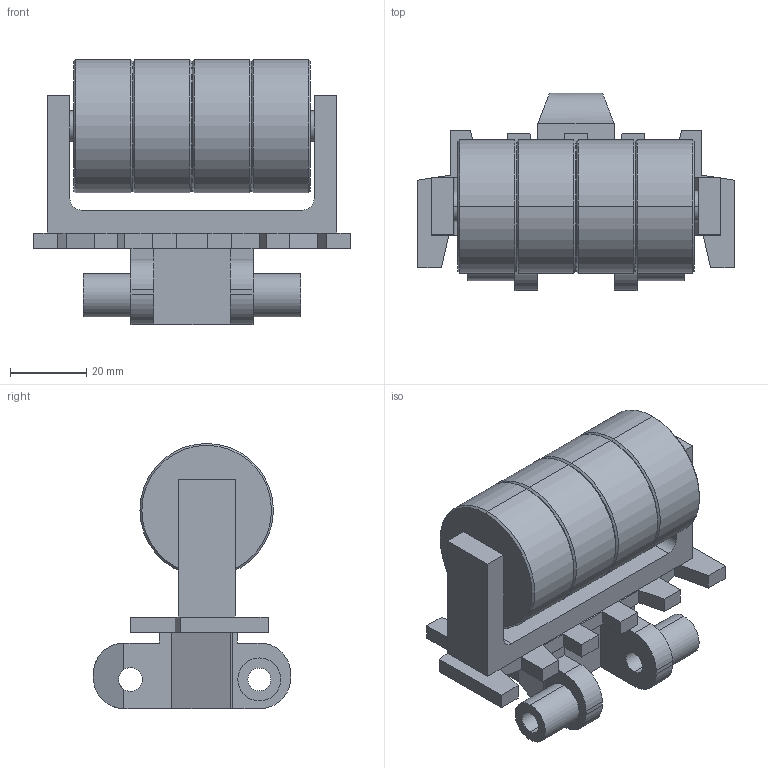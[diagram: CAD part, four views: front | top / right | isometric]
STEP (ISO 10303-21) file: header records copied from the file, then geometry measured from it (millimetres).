
FILE_DESCRIPTION (( 'STEP AP214' ), '1' );
FILE_NAME ('FMRC 5B.step', '2017-04-04T13:35:08', ( '' ), ( '' ), 'SwSTEP 2.0', 'SolidWorks 2015', '' );
FILE_SCHEMA (( 'AUTOMOTIVE_DESIGN' ));
Length unit declared in the file: millimetre
Products named in the file (1): FMRC 5B
Bounding box: 83 x 51.7 x 69.5 mm (x, y, z)
Volume: 96205.7 mm3; surface area: 28945 mm2
Topology: 3 solids, 3 shells, 172 faces, 432 edges, 268 vertices
Faces by surface type: plane 98, cylinder 42, cone 32
Entity records: 5270 total; most frequent: CARTESIAN_POINT 891, DIRECTION 878, ORIENTED_EDGE 864, EDGE_CURVE 432, LINE 320, VECTOR 320, AXIS2_PLACEMENT_3D 279, VERTEX_POINT 268
